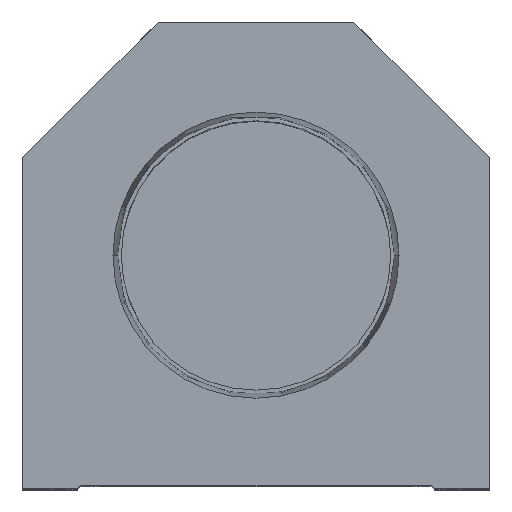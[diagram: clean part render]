
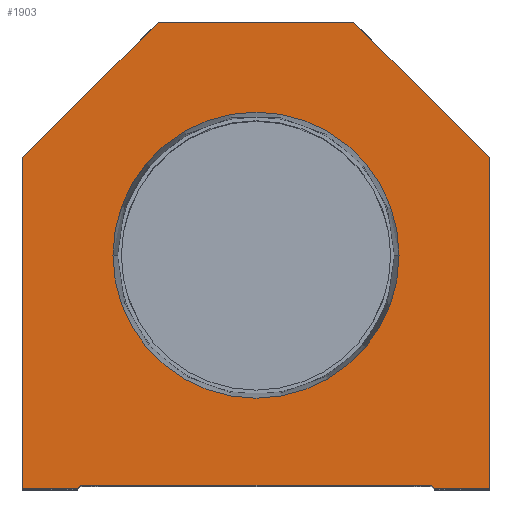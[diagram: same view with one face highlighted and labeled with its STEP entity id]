
A CAD part, top view. The second image highlights one B-rep face of the part: STEP entity #1903.
In plain terms, the highlighted planar face has unit normal (0, 0, 1).
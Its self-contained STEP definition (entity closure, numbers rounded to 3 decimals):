
#179 = EDGE_LOOP ( 'NONE', ( #18548, #10512 ) ) ;
#494 = CARTESIAN_POINT ( 'NONE',  ( 28.6, 0.5, 0. ) ) ;
#576 = LINE ( 'NONE', #14994, #18938 ) ;
#582 = CARTESIAN_POINT ( 'NONE',  ( 16., 76.2, 0. ) ) ;
#1169 = VECTOR ( 'NONE', #18336, 1000. ) ;
#1363 = VERTEX_POINT ( 'NONE', #494 ) ;
#1394 = VERTEX_POINT ( 'NONE', #18262 ) ;
#1469 = FACE_OUTER_BOUND ( 'NONE', #16857, .T. ) ;
#1622 = VECTOR ( 'NONE', #7513, 1000. ) ;
#1903 = ADVANCED_FACE ( 'NONE', ( #19067, #1469 ), #15788, .T. ) ;
#2025 = LINE ( 'NONE', #13547, #1169 ) ;
#2032 = DIRECTION ( 'NONE',  ( -1., 0., 0. ) ) ;
#2209 = LINE ( 'NONE', #13533, #18795 ) ;
#2270 = ORIENTED_EDGE ( 'NONE', *, *, #15635, .T. ) ;
#2439 = ORIENTED_EDGE ( 'NONE', *, *, #18453, .T. ) ;
#2440 = DIRECTION ( 'NONE',  ( -0.707, -0.707, 0. ) ) ;
#2542 = EDGE_CURVE ( 'NONE', #13593, #16369, #15628, .T. ) ;
#2601 = AXIS2_PLACEMENT_3D ( 'NONE', #7634, #10685, #15370 ) ;
#3800 = VERTEX_POINT ( 'NONE', #18320 ) ;
#3806 = EDGE_CURVE ( 'NONE', #9799, #6966, #6097, .T. ) ;
#4377 = LINE ( 'NONE', #7592, #13262 ) ;
#4382 = EDGE_CURVE ( 'NONE', #9021, #1394, #2209, .T. ) ;
#5636 = EDGE_CURVE ( 'NONE', #1394, #14226, #13626, .T. ) ;
#5746 = ORIENTED_EDGE ( 'NONE', *, *, #13295, .T. ) ;
#5868 = CARTESIAN_POINT ( 'NONE',  ( -28.6, 0., 0. ) ) ;
#6078 = LINE ( 'NONE', #7629, #1622 ) ;
#6097 = LINE ( 'NONE', #12704, #12826 ) ;
#6221 = CARTESIAN_POINT ( 'NONE',  ( 14.55, 14.55, 0. ) ) ;
#6491 = DIRECTION ( 'NONE',  ( -0.707, 0.707, 0. ) ) ;
#6737 = CARTESIAN_POINT ( 'NONE',  ( -29.1, 0., 0. ) ) ;
#6742 = CARTESIAN_POINT ( 'NONE',  ( 0., 38.1, 0. ) ) ;
#6966 = VERTEX_POINT ( 'NONE', #19209 ) ;
#7513 = DIRECTION ( 'NONE',  ( 1., 0., 0. ) ) ;
#7592 = CARTESIAN_POINT ( 'NONE',  ( 38.1, 0., 0. ) ) ;
#7629 = CARTESIAN_POINT ( 'NONE',  ( -28.6, 0.5, 0. ) ) ;
#7634 = CARTESIAN_POINT ( 'NONE',  ( 0., 38.1, 0. ) ) ;
#7675 = DIRECTION ( 'NONE',  ( 0.707, -0.707, 0. ) ) ;
#7972 = CARTESIAN_POINT ( 'NONE',  ( -28.6, 0.5, 0. ) ) ;
#8200 = CIRCLE ( 'NONE', #20559, 23.374 ) ;
#8307 = DIRECTION ( 'NONE',  ( 0., 0., 1. ) ) ;
#8477 = VECTOR ( 'NONE', #2032, 1000. ) ;
#8608 = LINE ( 'NONE', #582, #8477 ) ;
#8781 = ORIENTED_EDGE ( 'NONE', *, *, #19547, .T. ) ;
#9021 = VERTEX_POINT ( 'NONE', #16295 ) ;
#9088 = ORIENTED_EDGE ( 'NONE', *, *, #4382, .T. ) ;
#9349 = ORIENTED_EDGE ( 'NONE', *, *, #20305, .T. ) ;
#9479 = VERTEX_POINT ( 'NONE', #10469 ) ;
#9799 = VERTEX_POINT ( 'NONE', #18162 ) ;
#10176 = CARTESIAN_POINT ( 'NONE',  ( -38.1, 54.1, 0. ) ) ;
#10295 = DIRECTION ( 'NONE',  ( 1., 0., 0. ) ) ;
#10469 = CARTESIAN_POINT ( 'NONE',  ( 29.1, 0., 0. ) ) ;
#10512 = ORIENTED_EDGE ( 'NONE', *, *, #2542, .F. ) ;
#10685 = DIRECTION ( 'NONE',  ( 0., 0., 1. ) ) ;
#10930 = LINE ( 'NONE', #6221, #15182 ) ;
#11036 = ORIENTED_EDGE ( 'NONE', *, *, #16735, .T. ) ;
#11206 = DIRECTION ( 'NONE',  ( 0., 0., 1. ) ) ;
#12251 = CARTESIAN_POINT ( 'NONE',  ( 23.374, 38.1, 0. ) ) ;
#12619 = AXIS2_PLACEMENT_3D ( 'NONE', #17564, #11206, #14346 ) ;
#12704 = CARTESIAN_POINT ( 'NONE',  ( 38.1, 54.1, 0. ) ) ;
#12711 = ORIENTED_EDGE ( 'NONE', *, *, #5636, .T. ) ;
#12826 = VECTOR ( 'NONE', #6491, 1000. ) ;
#13129 = DIRECTION ( 'NONE',  ( 0., -1., 0. ) ) ;
#13262 = VECTOR ( 'NONE', #17329, 1000. ) ;
#13295 = EDGE_CURVE ( 'NONE', #6966, #3800, #8608, .T. ) ;
#13338 = CARTESIAN_POINT ( 'NONE',  ( 38.1, 0., 0. ) ) ;
#13362 = DIRECTION ( 'NONE',  ( 1., 0., 0. ) ) ;
#13533 = CARTESIAN_POINT ( 'NONE',  ( -38.1, 0., 0. ) ) ;
#13547 = CARTESIAN_POINT ( 'NONE',  ( -14.55, 14.55, 0. ) ) ;
#13593 = VERTEX_POINT ( 'NONE', #14350 ) ;
#13626 = LINE ( 'NONE', #5868, #14633 ) ;
#14052 = DIRECTION ( 'NONE',  ( 1., 0., 0. ) ) ;
#14226 = VERTEX_POINT ( 'NONE', #6737 ) ;
#14346 = DIRECTION ( 'NONE',  ( 1., 0., 0. ) ) ;
#14350 = CARTESIAN_POINT ( 'NONE',  ( -23.374, 38.1, 0. ) ) ;
#14633 = VECTOR ( 'NONE', #14052, 1000. ) ;
#14994 = CARTESIAN_POINT ( 'NONE',  ( 28.6, 0., 0. ) ) ;
#15182 = VECTOR ( 'NONE', #7675, 1000. ) ;
#15300 = ORIENTED_EDGE ( 'NONE', *, *, #3806, .T. ) ;
#15370 = DIRECTION ( 'NONE',  ( 1., 0., 0. ) ) ;
#15451 = EDGE_CURVE ( 'NONE', #16369, #13593, #8200, .T. ) ;
#15532 = VECTOR ( 'NONE', #2440, 1000. ) ;
#15628 = CIRCLE ( 'NONE', #2601, 23.374 ) ;
#15635 = EDGE_CURVE ( 'NONE', #1363, #9479, #10930, .T. ) ;
#15788 = PLANE ( 'NONE',  #12619 ) ;
#16295 = CARTESIAN_POINT ( 'NONE',  ( -38.1, 54.1, 0. ) ) ;
#16369 = VERTEX_POINT ( 'NONE', #12251 ) ;
#16735 = EDGE_CURVE ( 'NONE', #20586, #9799, #4377, .T. ) ;
#16857 = EDGE_LOOP ( 'NONE', ( #12711, #8781, #2439, #2270, #9349, #11036, #15300, #5746, #19064, #9088 ) ) ;
#17329 = DIRECTION ( 'NONE',  ( 0., 1., 0. ) ) ;
#17564 = CARTESIAN_POINT ( 'NONE',  ( 0., 0., 0. ) ) ;
#18039 = LINE ( 'NONE', #10176, #15532 ) ;
#18162 = CARTESIAN_POINT ( 'NONE',  ( 38.1, 54.1, 0. ) ) ;
#18262 = CARTESIAN_POINT ( 'NONE',  ( -38.1, 0., 0. ) ) ;
#18320 = CARTESIAN_POINT ( 'NONE',  ( -16., 76.2, 0. ) ) ;
#18336 = DIRECTION ( 'NONE',  ( 0.707, 0.707, 0. ) ) ;
#18453 = EDGE_CURVE ( 'NONE', #20519, #1363, #6078, .T. ) ;
#18548 = ORIENTED_EDGE ( 'NONE', *, *, #15451, .F. ) ;
#18795 = VECTOR ( 'NONE', #13129, 1000. ) ;
#18938 = VECTOR ( 'NONE', #10295, 1000. ) ;
#19064 = ORIENTED_EDGE ( 'NONE', *, *, #19548, .T. ) ;
#19067 = FACE_BOUND ( 'NONE', #179, .T. ) ;
#19209 = CARTESIAN_POINT ( 'NONE',  ( 16., 76.2, 0. ) ) ;
#19547 = EDGE_CURVE ( 'NONE', #14226, #20519, #2025, .T. ) ;
#19548 = EDGE_CURVE ( 'NONE', #3800, #9021, #18039, .T. ) ;
#20305 = EDGE_CURVE ( 'NONE', #9479, #20586, #576, .T. ) ;
#20519 = VERTEX_POINT ( 'NONE', #7972 ) ;
#20559 = AXIS2_PLACEMENT_3D ( 'NONE', #6742, #8307, #13362 ) ;
#20586 = VERTEX_POINT ( 'NONE', #13338 ) ;
